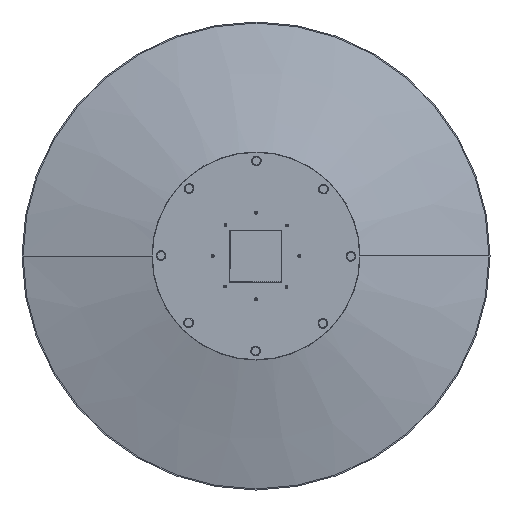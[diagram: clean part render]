
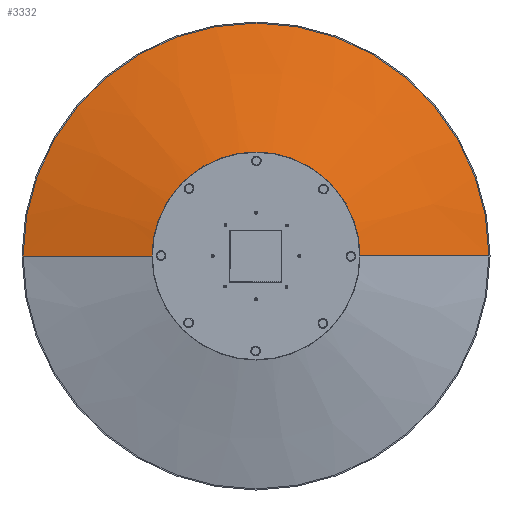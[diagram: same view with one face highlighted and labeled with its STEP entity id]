
A CAD part, front view. The second image highlights one B-rep face of the part: STEP entity #3332.
In plain terms, the highlighted conical face has half-angle 75 degrees and reference radius 468.316 mm.
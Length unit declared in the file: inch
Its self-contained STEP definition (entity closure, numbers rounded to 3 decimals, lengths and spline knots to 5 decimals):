
#945=LINE('',#5556,#1155);
#946=LINE('',#5559,#1156);
#1155=VECTOR('',#4427,0.3937);
#1156=VECTOR('',#4430,0.3937);
#1361=CONICAL_SURFACE('',#3946,18.43764,1.309);
#1458=FACE_OUTER_BOUND('',#1616,.T.);
#1616=EDGE_LOOP('',(#2591,#2592,#2593,#2594));
#1848=CIRCLE('',#3945,10.00028);
#1849=CIRCLE('',#3947,26.875);
#2021=VERTEX_POINT('',#5549);
#2022=VERTEX_POINT('',#5551);
#2023=VERTEX_POINT('',#5555);
#2024=VERTEX_POINT('',#5557);
#2247=EDGE_CURVE('',#2022,#2021,#1848,.T.);
#2249=EDGE_CURVE('',#2021,#2023,#945,.T.);
#2250=EDGE_CURVE('',#2024,#2023,#1849,.T.);
#2251=EDGE_CURVE('',#2022,#2024,#946,.T.);
#2591=ORIENTED_EDGE('',*,*,#2249,.T.);
#2592=ORIENTED_EDGE('',*,*,#2250,.F.);
#2593=ORIENTED_EDGE('',*,*,#2251,.F.);
#2594=ORIENTED_EDGE('',*,*,#2247,.T.);
#3332=ADVANCED_FACE('',(#1458),#1361,.T.);
#3945=AXIS2_PLACEMENT_3D('',#5552,#4422,#4423);
#3946=AXIS2_PLACEMENT_3D('',#5554,#4425,#4426);
#3947=AXIS2_PLACEMENT_3D('',#5558,#4428,#4429);
#4422=DIRECTION('center_axis',(0.,1.,0.));
#4423=DIRECTION('ref_axis',(0.,0.,1.));
#4425=DIRECTION('center_axis',(0.,1.,0.));
#4426=DIRECTION('ref_axis',(0.,0.,1.));
#4427=DIRECTION('',(0.,0.259,-0.966));
#4428=DIRECTION('center_axis',(0.,1.,0.));
#4429=DIRECTION('ref_axis',(0.,0.,1.));
#4430=DIRECTION('',(0.,0.259,0.966));
#5549=CARTESIAN_POINT('',(0.,-5.02157,-10.00028));
#5551=CARTESIAN_POINT('',(0.,-5.02157,10.00028));
#5552=CARTESIAN_POINT('Origin',(0.,-5.02157,0.));
#5554=CARTESIAN_POINT('Origin',(0.,-2.76078,0.));
#5555=CARTESIAN_POINT('',(0.,-0.5,-26.875));
#5556=CARTESIAN_POINT('',(0.,-5.02157,-10.00028));
#5557=CARTESIAN_POINT('',(0.,-0.5,26.875));
#5558=CARTESIAN_POINT('Origin',(0.,-0.5,0.));
#5559=CARTESIAN_POINT('',(0.,-5.02157,10.00028));
